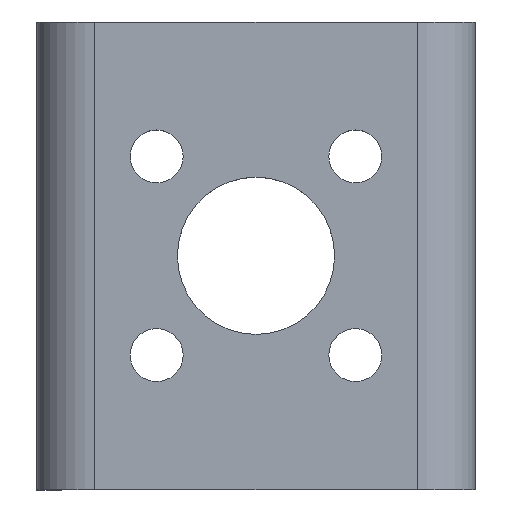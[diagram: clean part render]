
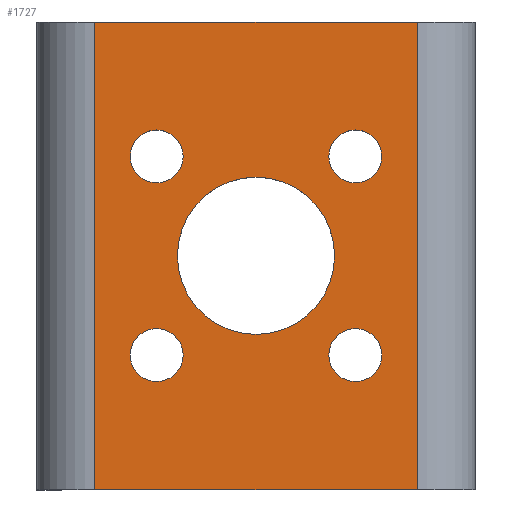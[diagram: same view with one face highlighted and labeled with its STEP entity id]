
A CAD part, top view. The second image highlights one B-rep face of the part: STEP entity #1727.
In plain terms, the highlighted planar face has unit normal (0, 0, 1).
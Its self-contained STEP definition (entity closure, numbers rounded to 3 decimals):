
#93 = CIRCLE ( 'NONE', #613, 1.6 ) ;
#101 = EDGE_LOOP ( 'NONE', ( #591, #1497 ) ) ;
#119 = CIRCLE ( 'NONE', #580, 1.6 ) ;
#136 = VERTEX_POINT ( 'NONE', #1399 ) ;
#153 = VECTOR ( 'NONE', #405, 1000. ) ;
#154 = ORIENTED_EDGE ( 'NONE', *, *, #1870, .T. ) ;
#166 = CARTESIAN_POINT ( 'NONE',  ( -4.4, 6., 0. ) ) ;
#174 = ORIENTED_EDGE ( 'NONE', *, *, #585, .F. ) ;
#178 = FACE_BOUND ( 'NONE', #101, .T. ) ;
#185 = VERTEX_POINT ( 'NONE', #828 ) ;
#186 = CIRCLE ( 'NONE', #1340, 4.75 ) ;
#192 = ORIENTED_EDGE ( 'NONE', *, *, #695, .F. ) ;
#204 = DIRECTION ( 'NONE',  ( 0., 0., 1. ) ) ;
#205 = ORIENTED_EDGE ( 'NONE', *, *, #749, .F. ) ;
#231 = VERTEX_POINT ( 'NONE', #1716 ) ;
#236 = ORIENTED_EDGE ( 'NONE', *, *, #416, .F. ) ;
#244 = AXIS2_PLACEMENT_3D ( 'NONE', #947, #667, #1299 ) ;
#285 = CARTESIAN_POINT ( 'NONE',  ( 0., 0., 0. ) ) ;
#307 = CIRCLE ( 'NONE', #1711, 1.6 ) ;
#314 = VERTEX_POINT ( 'NONE', #1903 ) ;
#351 = FACE_OUTER_BOUND ( 'NONE', #685, .T. ) ;
#362 = CARTESIAN_POINT ( 'NONE',  ( -6., 6., 0. ) ) ;
#371 = VECTOR ( 'NONE', #1672, 1000. ) ;
#374 = CIRCLE ( 'NONE', #1765, 1.6 ) ;
#386 = CARTESIAN_POINT ( 'NONE',  ( -9.75, 14.125, 0. ) ) ;
#405 = DIRECTION ( 'NONE',  ( 1., 0., 0. ) ) ;
#412 = LINE ( 'NONE', #1874, #153 ) ;
#416 = EDGE_CURVE ( 'NONE', #185, #1902, #1307, .T. ) ;
#431 = DIRECTION ( 'NONE',  ( 0., 0., 1. ) ) ;
#439 = DIRECTION ( 'NONE',  ( 0., 0., 1. ) ) ;
#440 = ORIENTED_EDGE ( 'NONE', *, *, #1461, .T. ) ;
#442 = DIRECTION ( 'NONE',  ( 1., 0., 0. ) ) ;
#490 = AXIS2_PLACEMENT_3D ( 'NONE', #1524, #204, #1081 ) ;
#492 = CIRCLE ( 'NONE', #1280, 4.75 ) ;
#498 = CARTESIAN_POINT ( 'NONE',  ( 9.75, -14.125, 0. ) ) ;
#507 = VERTEX_POINT ( 'NONE', #1208 ) ;
#523 = DIRECTION ( 'NONE',  ( 0., 0., 1. ) ) ;
#571 = VERTEX_POINT ( 'NONE', #820 ) ;
#580 = AXIS2_PLACEMENT_3D ( 'NONE', #1695, #1097, #1548 ) ;
#585 = EDGE_CURVE ( 'NONE', #1168, #869, #1276, .T. ) ;
#591 = ORIENTED_EDGE ( 'NONE', *, *, #1893, .F. ) ;
#602 = ORIENTED_EDGE ( 'NONE', *, *, #992, .F. ) ;
#613 = AXIS2_PLACEMENT_3D ( 'NONE', #1311, #1898, #855 ) ;
#667 = DIRECTION ( 'NONE',  ( 0., 0., 1. ) ) ;
#681 = VERTEX_POINT ( 'NONE', #1750 ) ;
#685 = EDGE_LOOP ( 'NONE', ( #154, #440, #1777, #1567 ) ) ;
#695 = EDGE_CURVE ( 'NONE', #1875, #571, #374, .T. ) ;
#734 = VERTEX_POINT ( 'NONE', #994 ) ;
#737 = CARTESIAN_POINT ( 'NONE',  ( -7.6, -6., 0. ) ) ;
#742 = EDGE_CURVE ( 'NONE', #136, #734, #492, .T. ) ;
#749 = EDGE_CURVE ( 'NONE', #869, #1168, #93, .T. ) ;
#751 = CARTESIAN_POINT ( 'NONE',  ( -4.4, -6., 0. ) ) ;
#753 = CARTESIAN_POINT ( 'NONE',  ( -9.75, 14.125, 0. ) ) ;
#762 = FACE_BOUND ( 'NONE', #1616, .T. ) ;
#770 = VERTEX_POINT ( 'NONE', #865 ) ;
#791 = EDGE_CURVE ( 'NONE', #734, #136, #186, .T. ) ;
#820 = CARTESIAN_POINT ( 'NONE',  ( 7.6, 6., 0. ) ) ;
#828 = CARTESIAN_POINT ( 'NONE',  ( -7.6, 6., 0. ) ) ;
#837 = VECTOR ( 'NONE', #1894, 1000. ) ;
#855 = DIRECTION ( 'NONE',  ( 1., 0., 0. ) ) ;
#865 = CARTESIAN_POINT ( 'NONE',  ( 9.75, -14.125, 0. ) ) ;
#869 = VERTEX_POINT ( 'NONE', #751 ) ;
#908 = FACE_BOUND ( 'NONE', #1487, .T. ) ;
#912 = DIRECTION ( 'NONE',  ( 1., 0., 0. ) ) ;
#918 = FACE_BOUND ( 'NONE', #1025, .T. ) ;
#938 = PLANE ( 'NONE',  #490 ) ;
#947 = CARTESIAN_POINT ( 'NONE',  ( -6., -6., 0. ) ) ;
#957 = CARTESIAN_POINT ( 'NONE',  ( 6., 6., 0. ) ) ;
#968 = DIRECTION ( 'NONE',  ( -1., 0., 0. ) ) ;
#992 = EDGE_CURVE ( 'NONE', #571, #1875, #307, .T. ) ;
#994 = CARTESIAN_POINT ( 'NONE',  ( -4.75, 0., 0. ) ) ;
#1025 = EDGE_LOOP ( 'NONE', ( #1532, #236 ) ) ;
#1026 = DIRECTION ( 'NONE',  ( 1., 0., 0. ) ) ;
#1036 = CARTESIAN_POINT ( 'NONE',  ( 0., 0., 0. ) ) ;
#1056 = EDGE_CURVE ( 'NONE', #681, #507, #119, .T. ) ;
#1064 = DIRECTION ( 'NONE',  ( 1., 0., 0. ) ) ;
#1081 = DIRECTION ( 'NONE',  ( 1., 0., 0. ) ) ;
#1097 = DIRECTION ( 'NONE',  ( 0., 0., 1. ) ) ;
#1118 = LINE ( 'NONE', #1594, #1737 ) ;
#1123 = EDGE_CURVE ( 'NONE', #1902, #185, #1216, .T. ) ;
#1168 = VERTEX_POINT ( 'NONE', #737 ) ;
#1185 = DIRECTION ( 'NONE',  ( 0., 0., 1. ) ) ;
#1208 = CARTESIAN_POINT ( 'NONE',  ( 7.6, -6., 0. ) ) ;
#1214 = DIRECTION ( 'NONE',  ( 0., 0., 1. ) ) ;
#1216 = CIRCLE ( 'NONE', #1376, 1.6 ) ;
#1255 = FACE_BOUND ( 'NONE', #1721, .T. ) ;
#1276 = CIRCLE ( 'NONE', #244, 1.6 ) ;
#1280 = AXIS2_PLACEMENT_3D ( 'NONE', #285, #431, #442 ) ;
#1299 = DIRECTION ( 'NONE',  ( 1., 0., 0. ) ) ;
#1307 = CIRCLE ( 'NONE', #1553, 1.6 ) ;
#1311 = CARTESIAN_POINT ( 'NONE',  ( -6., -6., 0. ) ) ;
#1313 = DIRECTION ( 'NONE',  ( 0., 0., 1. ) ) ;
#1328 = DIRECTION ( 'NONE',  ( 0., 0., 1. ) ) ;
#1340 = AXIS2_PLACEMENT_3D ( 'NONE', #1036, #1328, #1026 ) ;
#1376 = AXIS2_PLACEMENT_3D ( 'NONE', #1928, #439, #912 ) ;
#1398 = EDGE_CURVE ( 'NONE', #314, #770, #412, .T. ) ;
#1399 = CARTESIAN_POINT ( 'NONE',  ( 4.75, 0., 0. ) ) ;
#1450 = CARTESIAN_POINT ( 'NONE',  ( 6., 6., 0. ) ) ;
#1461 = EDGE_CURVE ( 'NONE', #1612, #314, #1722, .T. ) ;
#1487 = EDGE_LOOP ( 'NONE', ( #602, #192 ) ) ;
#1497 = ORIENTED_EDGE ( 'NONE', *, *, #1056, .F. ) ;
#1524 = CARTESIAN_POINT ( 'NONE',  ( 0., 0., 0. ) ) ;
#1528 = ORIENTED_EDGE ( 'NONE', *, *, #791, .F. ) ;
#1532 = ORIENTED_EDGE ( 'NONE', *, *, #1123, .F. ) ;
#1548 = DIRECTION ( 'NONE',  ( 1., 0., 0. ) ) ;
#1553 = AXIS2_PLACEMENT_3D ( 'NONE', #362, #1214, #1064 ) ;
#1567 = ORIENTED_EDGE ( 'NONE', *, *, #1701, .T. ) ;
#1594 = CARTESIAN_POINT ( 'NONE',  ( 11.75, 14.125, 0. ) ) ;
#1602 = DIRECTION ( 'NONE',  ( 1., 0., 0. ) ) ;
#1612 = VERTEX_POINT ( 'NONE', #753 ) ;
#1614 = CARTESIAN_POINT ( 'NONE',  ( 6., -6., 0. ) ) ;
#1616 = EDGE_LOOP ( 'NONE', ( #1861, #1528 ) ) ;
#1672 = DIRECTION ( 'NONE',  ( 0., 1., 0. ) ) ;
#1695 = CARTESIAN_POINT ( 'NONE',  ( 6., -6., 0. ) ) ;
#1701 = EDGE_CURVE ( 'NONE', #770, #231, #1825, .T. ) ;
#1711 = AXIS2_PLACEMENT_3D ( 'NONE', #957, #523, #1850 ) ;
#1716 = CARTESIAN_POINT ( 'NONE',  ( 9.75, 14.125, 0. ) ) ;
#1721 = EDGE_LOOP ( 'NONE', ( #205, #174 ) ) ;
#1722 = LINE ( 'NONE', #386, #837 ) ;
#1727 = ADVANCED_FACE ( 'NONE', ( #908, #178, #762, #1255, #918, #351 ), #938, .T. ) ;
#1737 = VECTOR ( 'NONE', #968, 1000. ) ;
#1750 = CARTESIAN_POINT ( 'NONE',  ( 4.4, -6., 0. ) ) ;
#1765 = AXIS2_PLACEMENT_3D ( 'NONE', #1450, #1185, #1602 ) ;
#1777 = ORIENTED_EDGE ( 'NONE', *, *, #1398, .T. ) ;
#1825 = LINE ( 'NONE', #498, #371 ) ;
#1833 = CIRCLE ( 'NONE', #1918, 1.6 ) ;
#1850 = DIRECTION ( 'NONE',  ( 1., 0., 0. ) ) ;
#1861 = ORIENTED_EDGE ( 'NONE', *, *, #742, .F. ) ;
#1870 = EDGE_CURVE ( 'NONE', #231, #1612, #1118, .T. ) ;
#1871 = CARTESIAN_POINT ( 'NONE',  ( 4.4, 6., 0. ) ) ;
#1874 = CARTESIAN_POINT ( 'NONE',  ( 11.75, -14.125, 0. ) ) ;
#1875 = VERTEX_POINT ( 'NONE', #1871 ) ;
#1893 = EDGE_CURVE ( 'NONE', #507, #681, #1833, .T. ) ;
#1894 = DIRECTION ( 'NONE',  ( 0., -1., 0. ) ) ;
#1898 = DIRECTION ( 'NONE',  ( 0., 0., 1. ) ) ;
#1902 = VERTEX_POINT ( 'NONE', #166 ) ;
#1903 = CARTESIAN_POINT ( 'NONE',  ( -9.75, -14.125, 0. ) ) ;
#1909 = DIRECTION ( 'NONE',  ( 1., 0., 0. ) ) ;
#1918 = AXIS2_PLACEMENT_3D ( 'NONE', #1614, #1313, #1909 ) ;
#1928 = CARTESIAN_POINT ( 'NONE',  ( -6., 6., 0. ) ) ;
